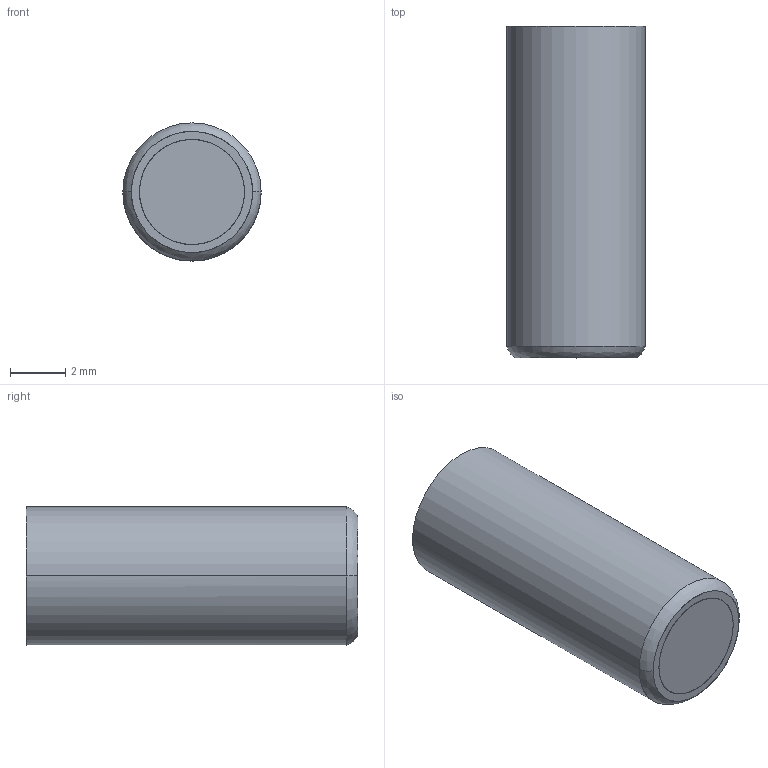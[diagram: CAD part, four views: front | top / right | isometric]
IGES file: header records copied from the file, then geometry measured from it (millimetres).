
Start section: START RECORD GO HERE.
Global section: file name: fa053004-20.igs; native system: DASSAULT SYSTEMES CATIA V5 R20 - www.3ds.com; preprocessor: CATIA Version 5 Release 20 ; author: Utente; organization: NB04-ASUS; date: 20201108.083947; units: millimetre
Bounding box: 5 x 12 x 5 mm (x, y, z)
Surface area: 599.5 mm2 (no closed solid volume)
Topology: 0 solids, 0 shells, 370 faces, 1674 edges, 1664 vertices
Faces by surface type: bspline 180, revolution 112, plane 78
